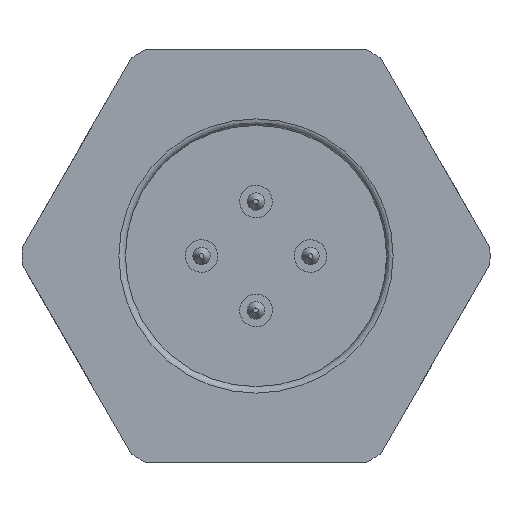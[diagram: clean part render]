
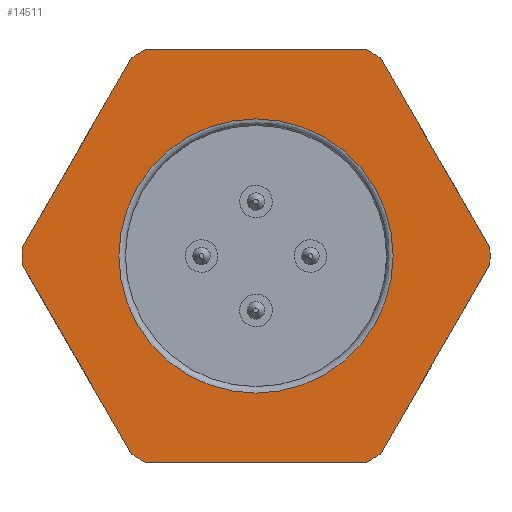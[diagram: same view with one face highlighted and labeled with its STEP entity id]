
A CAD part, front view. The second image highlights one B-rep face of the part: STEP entity #14511.
In plain terms, the highlighted planar face has unit normal (0, -1, 0).
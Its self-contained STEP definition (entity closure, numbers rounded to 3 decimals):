
#12497=CARTESIAN_POINT('',(6.3,0.,0.648));
#12498=VERTEX_POINT('',#12497);
#12499=CARTESIAN_POINT('',(0.,0.,0.648));
#12500=DIRECTION('',(0.0,1.0,0.0));
#12501=DIRECTION('',(1.0,0.0,0.0));
#12502=AXIS2_PLACEMENT_3D('',#12499,#12500,#12501);
#12503=CIRCLE('',#12502,6.3);
#12504=EDGE_CURVE('',#12498,#12498,#12503,.T.);
#13151=CARTESIAN_POINT('',(-5.031,0.,-8.852));
#13152=VERTEX_POINT('',#13151);
#13159=CARTESIAN_POINT('',(-5.712,0.,-8.459));
#13160=VERTEX_POINT('',#13159);
#13161=CARTESIAN_POINT('',(0.,0.,0.648));
#13162=DIRECTION('',(0.0,-1.0,0.0));
#13163=DIRECTION('',(1.0,0.0,0.0));
#13164=AXIS2_PLACEMENT_3D('',#13161,#13162,#13163);
#13165=CIRCLE('',#13164,10.75);
#13166=EDGE_CURVE('',#13160,#13152,#13165,.T.);
#13210=CARTESIAN_POINT('',(5.031,0.,-8.852));
#13211=VERTEX_POINT('',#13210);
#13218=CARTESIAN_POINT('',(5.031,0.,-8.852));
#13219=DIRECTION('',(-1.0,0.0,0.0));
#13220=VECTOR('',#13219,10.062);
#13221=LINE('',#13218,#13220);
#13222=EDGE_CURVE('',#13211,#13152,#13221,.T.);
#13234=CARTESIAN_POINT('',(5.712,0.,-8.459));
#13235=VERTEX_POINT('',#13234);
#13242=CARTESIAN_POINT('',(0.,0.,0.648));
#13243=DIRECTION('',(0.0,-1.0,0.0));
#13244=DIRECTION('',(1.0,0.0,0.0));
#13245=AXIS2_PLACEMENT_3D('',#13242,#13243,#13244);
#13246=CIRCLE('',#13245,10.75);
#13247=EDGE_CURVE('',#13211,#13235,#13246,.T.);
#13286=CARTESIAN_POINT('',(10.743,0.,0.255));
#13287=VERTEX_POINT('',#13286);
#13294=CARTESIAN_POINT('',(10.743,0.,0.255));
#13295=DIRECTION('',(-0.5,0.,-0.866));
#13296=VECTOR('',#13295,10.062);
#13297=LINE('',#13294,#13296);
#13298=EDGE_CURVE('',#13287,#13235,#13297,.T.);
#13310=CARTESIAN_POINT('',(10.743,0.,1.041));
#13311=VERTEX_POINT('',#13310);
#13318=CARTESIAN_POINT('',(0.,0.,0.648));
#13319=DIRECTION('',(0.0,-1.0,0.0));
#13320=DIRECTION('',(1.0,0.0,0.0));
#13321=AXIS2_PLACEMENT_3D('',#13318,#13319,#13320);
#13322=CIRCLE('',#13321,10.75);
#13323=EDGE_CURVE('',#13287,#13311,#13322,.T.);
#13362=CARTESIAN_POINT('',(5.712,0.,9.755));
#13363=VERTEX_POINT('',#13362);
#13370=CARTESIAN_POINT('',(5.712,0.,9.755));
#13371=DIRECTION('',(0.5,0.,-0.866));
#13372=VECTOR('',#13371,10.062);
#13373=LINE('',#13370,#13372);
#13374=EDGE_CURVE('',#13363,#13311,#13373,.T.);
#13386=CARTESIAN_POINT('',(5.031,0.,10.148));
#13387=VERTEX_POINT('',#13386);
#13394=CARTESIAN_POINT('',(0.,0.,0.648));
#13395=DIRECTION('',(0.0,-1.0,0.0));
#13396=DIRECTION('',(1.0,0.0,0.0));
#13397=AXIS2_PLACEMENT_3D('',#13394,#13395,#13396);
#13398=CIRCLE('',#13397,10.75);
#13399=EDGE_CURVE('',#13363,#13387,#13398,.T.);
#13438=CARTESIAN_POINT('',(-5.031,0.,10.148));
#13439=VERTEX_POINT('',#13438);
#13446=CARTESIAN_POINT('',(-5.031,0.,10.148));
#13447=DIRECTION('',(1.0,0.0,0.0));
#13448=VECTOR('',#13447,10.062);
#13449=LINE('',#13446,#13448);
#13450=EDGE_CURVE('',#13439,#13387,#13449,.T.);
#13462=CARTESIAN_POINT('',(-5.712,0.,9.755));
#13463=VERTEX_POINT('',#13462);
#13470=CARTESIAN_POINT('',(0.,0.,0.648));
#13471=DIRECTION('',(0.0,-1.0,0.0));
#13472=DIRECTION('',(1.0,0.0,0.0));
#13473=AXIS2_PLACEMENT_3D('',#13470,#13471,#13472);
#13474=CIRCLE('',#13473,10.75);
#13475=EDGE_CURVE('',#13439,#13463,#13474,.T.);
#13490=CARTESIAN_POINT('',(-10.743,0.,0.255));
#13491=VERTEX_POINT('',#13490);
#13492=CARTESIAN_POINT('',(-5.712,0.,-8.459));
#13493=DIRECTION('',(-0.5,0.,0.866));
#13494=VECTOR('',#13493,10.062);
#13495=LINE('',#13492,#13494);
#13496=EDGE_CURVE('',#13160,#13491,#13495,.T.);
#13583=CARTESIAN_POINT('',(-10.743,0.,1.041));
#13584=VERTEX_POINT('',#13583);
#13591=CARTESIAN_POINT('',(-10.743,0.,1.041));
#13592=DIRECTION('',(0.5,0.,0.866));
#13593=VECTOR('',#13592,10.062);
#13594=LINE('',#13591,#13593);
#13595=EDGE_CURVE('',#13584,#13463,#13594,.T.);
#14277=CARTESIAN_POINT('',(0.,0.,0.648));
#14278=DIRECTION('',(0.0,-1.0,0.0));
#14279=DIRECTION('',(1.0,0.0,0.0));
#14280=AXIS2_PLACEMENT_3D('',#14277,#14278,#14279);
#14281=CIRCLE('',#14280,10.75);
#14282=EDGE_CURVE('',#13584,#13491,#14281,.T.);
#14489=CARTESIAN_POINT('',(8.725,0.,0.648));
#14490=DIRECTION('',(0.0,-1.0,0.0));
#14491=DIRECTION('',(0.0,0.0,-1.0));
#14492=AXIS2_PLACEMENT_3D('',#14489,#14490,#14491);
#14493=PLANE('',#14492);
#14494=ORIENTED_EDGE('',*,*,#13496,.F.);
#14495=ORIENTED_EDGE('',*,*,#13166,.T.);
#14496=ORIENTED_EDGE('',*,*,#13222,.F.);
#14497=ORIENTED_EDGE('',*,*,#13247,.T.);
#14498=ORIENTED_EDGE('',*,*,#13298,.F.);
#14499=ORIENTED_EDGE('',*,*,#13323,.T.);
#14500=ORIENTED_EDGE('',*,*,#13374,.F.);
#14501=ORIENTED_EDGE('',*,*,#13399,.T.);
#14502=ORIENTED_EDGE('',*,*,#13450,.F.);
#14503=ORIENTED_EDGE('',*,*,#13475,.T.);
#14504=ORIENTED_EDGE('',*,*,#13595,.F.);
#14505=ORIENTED_EDGE('',*,*,#14282,.T.);
#14506=EDGE_LOOP('',(#14494,#14495,#14496,#14497,#14498,#14499,#14500,#14501,#14502,#14503,#14504,#14505));
#14507=FACE_OUTER_BOUND('',#14506,.T.);
#14508=ORIENTED_EDGE('',*,*,#12504,.T.);
#14509=EDGE_LOOP('',(#14508));
#14510=FACE_BOUND('',#14509,.T.);
#14511=ADVANCED_FACE('',(#14507,#14510),#14493,.T.);
